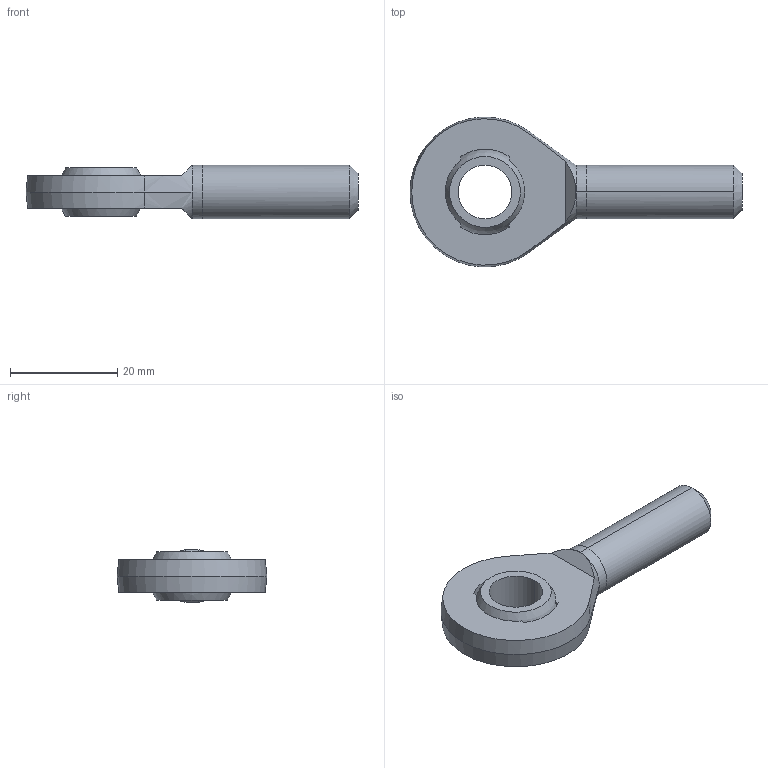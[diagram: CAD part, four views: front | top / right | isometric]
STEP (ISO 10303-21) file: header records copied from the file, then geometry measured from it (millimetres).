
FILE_DESCRIPTION (( 'STEP AP203' ), '1' );
FILE_NAME ('65860.W0010.step', '2014-02-06T11:43:28', ( 'User' ), ( '' ), 'SwSTEP 2.0', 'SolidWorks 2009', '' );
FILE_SCHEMA (( 'CONFIG_CONTROL_DESIGN' ));
Length unit declared in the file: millimetre
Products named in the file (3): Part1_65860.W0010; Part2_65860.W0010; 65860.W0010
Assembly tree (2 placements, depth 2):
  65860.W0010
    Part1_65860.W0010
    Part2_65860.W0010
Bounding box: 62 x 27.96 x 10 mm (x, y, z)
Volume: 6118.4 mm3; surface area: 3607.2 mm2
Topology: 2 solids, 2 shells, 35 faces, 82 edges, 51 vertices
Faces by surface type: plane 15, sphere 8, cylinder 8, cone 4
Entity records: 1357 total; most frequent: CARTESIAN_POINT 231, DIRECTION 196, ORIENTED_EDGE 160, AXIS2_PLACEMENT_3D 84, EDGE_CURVE 80, VERTEX_POINT 51, CIRCLE 44, EDGE_LOOP 41
